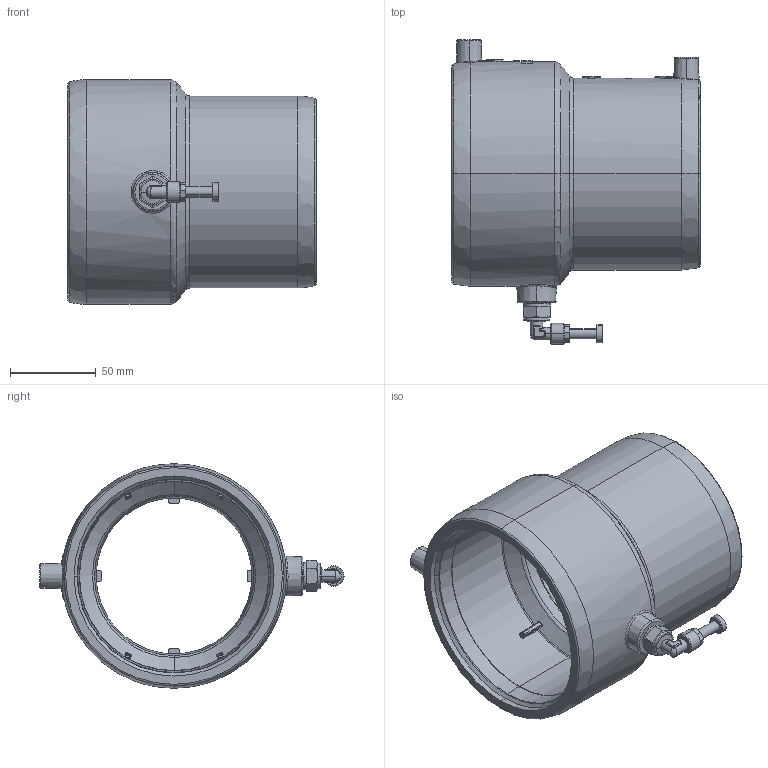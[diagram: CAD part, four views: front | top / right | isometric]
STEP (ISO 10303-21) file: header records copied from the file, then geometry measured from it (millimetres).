
FILE_DESCRIPTION (( 'STEP AP214' ), '1' );
FILE_NAME ('KP_T110-90SC2A.STEP', '2025-04-23T09:50:32', ( '' ), ( '' ), 'SwSTEP 2.0', 'SolidWorks 2023', '' );
FILE_SCHEMA (( 'AUTOMOTIVE_DESIGN' ));
Length unit declared in the file: millimetre
Products named in the file (1): KP_T110-90SC2A
Bounding box: 144.5 x 176.92 x 130.7 mm (x, y, z)
Volume: 521736.1 mm3; surface area: 115308 mm2
Topology: 1 solids, 7 shells, 870 faces, 2108 edges, 1280 vertices
Faces by surface type: plane 262, bspline 230, cylinder 168, cone 97, torus 89, sphere 24
Entity records: 32562 total; most frequent: CARTESIAN_POINT 14586, ORIENTED_EDGE 4184, DIRECTION 3290, EDGE_CURVE 2092, AXIS2_PLACEMENT_3D 1365, VERTEX_POINT 1280, EDGE_LOOP 938, ADVANCED_FACE 870
